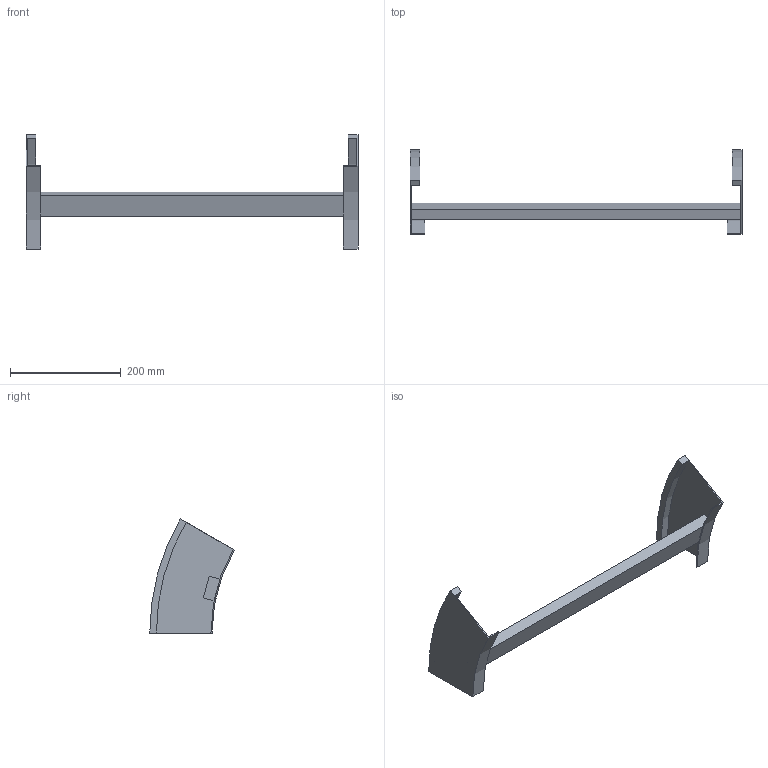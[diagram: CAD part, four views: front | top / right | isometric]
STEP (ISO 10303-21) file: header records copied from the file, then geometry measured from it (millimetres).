
FILE_DESCRIPTION (( 'STEP AP214' ), '1' );
FILE_NAME ('B2_35B3J600.step', '2025-02-21T14:48:47', ( '' ), ( '' ), 'SwSTEP 2.0', 'SolidWorks 2023', '' );
FILE_SCHEMA (( 'AUTOMOTIVE_DESIGN' ));
Length unit declared in the file: millimetre
Products named in the file (3): B2_35B3J600; TRAVERSINO_600; B2_LONGH.DISCESA_30°_H112.5_R300
Assembly tree (3 placements, depth 2):
  B2_35B3J600
    B2_LONGH.DISCESA_30°_H112.5_R300  x2
    TRAVERSINO_600
Bounding box: 600 x 152.69 x 206.25 mm (x, y, z)
Volume: 664191.4 mm3; surface area: 190418 mm2
Topology: 3 solids, 3 shells, 26 faces, 60 edges, 40 vertices
Faces by surface type: plane 18, cylinder 8
Entity records: 544 total; most frequent: DIRECTION 88, CARTESIAN_POINT 82, ORIENTED_EDGE 72, EDGE_CURVE 36, AXIS2_PLACEMENT_3D 30, LINE 28, VECTOR 28, VERTEX_POINT 24
